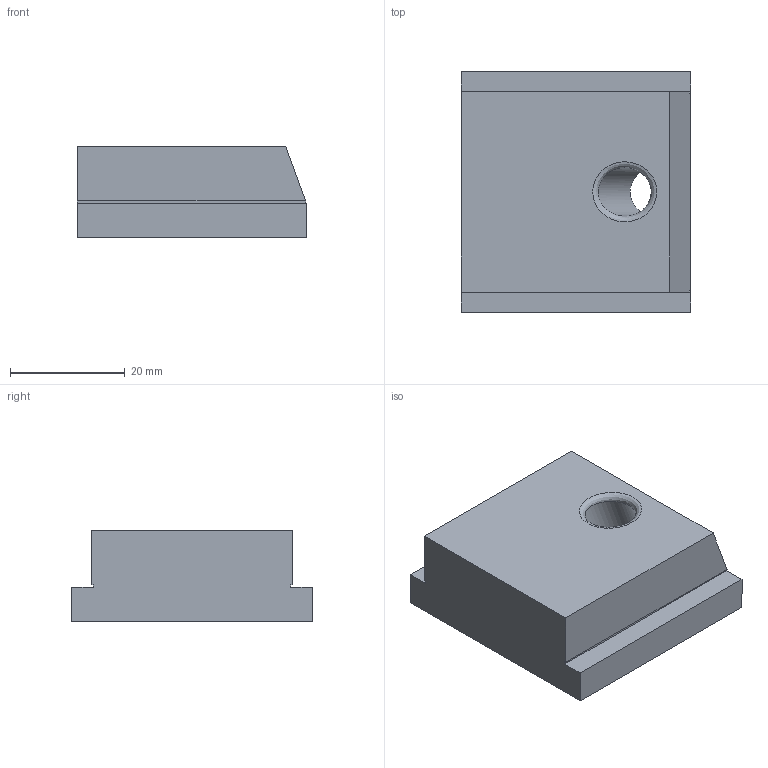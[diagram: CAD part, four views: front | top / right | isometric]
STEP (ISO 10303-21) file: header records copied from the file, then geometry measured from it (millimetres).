
FILE_DESCRIPTION (( 'STEP AP214' ), '1' );
FILE_NAME ('Schieber_-_H16 B35 L40.step', '2024-01-15T11:27:08', ( '' ), ( '' ), 'SwSTEP 2.0', 'SolidWorks 2020', '' );
FILE_SCHEMA (( 'AUTOMOTIVE_DESIGN' ));
Length unit declared in the file: millimetre
Products named in the file (1): Schieber_-_H16 B35 L40
Bounding box: 40 x 42 x 16 mm (x, y, z)
Volume: 22456.8 mm3; surface area: 6072.5 mm2
Topology: 1 solids, 1 shells, 209 faces, 558 edges, 371 vertices
Faces by surface type: plane 118, bspline 90, cylinder 1
Full cylindrical faces by diameter (mm): 8.5 x1
Entity records: 11104 total; most frequent: CARTESIAN_POINT 6481, ORIENTED_EDGE 1112, DIRECTION 615, EDGE_CURVE 556, LINE 375, VECTOR 375, VERTEX_POINT 371, EDGE_LOOP 233
